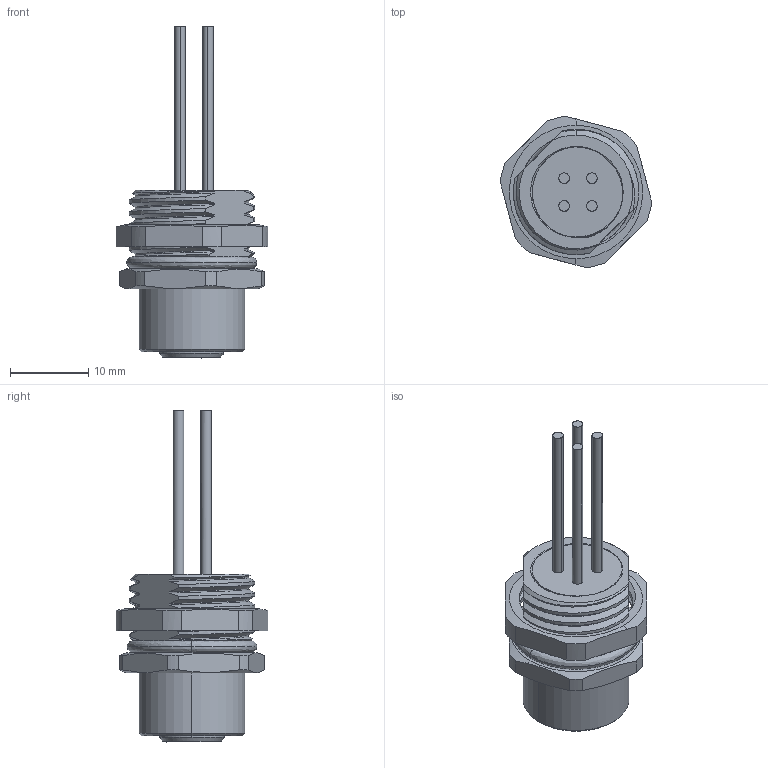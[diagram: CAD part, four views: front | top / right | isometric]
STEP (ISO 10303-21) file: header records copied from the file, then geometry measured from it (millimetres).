
FILE_DESCRIPTION (( 'STEP AP203' ), '1' );
FILE_NAME ('64SA01-XXX.STEP', '2023-10-17T09:13:15', ( 'ADMIN' ), ( '' ), 'SwSTEP 2.0', 'SolidWorks 2016', '' );
FILE_SCHEMA (( 'CONFIG_CONTROL_DESIGN' ));
Length unit declared in the file: millimetre
Products named in the file (1): 64SA01-XXX
Bounding box: 19.33 x 19.33 x 42.33 mm (x, y, z)
Volume: 3497.3 mm3; surface area: 3645.1 mm2
Topology: 1 solids, 12 shells, 505 faces, 1358 edges, 897 vertices
Faces by surface type: cylinder 169, bspline 158, plane 139, cone 39
Entity records: 52968 total; most frequent: CARTESIAN_POINT 42258, ORIENTED_EDGE 2716, EDGE_CURVE 1358, DIRECTION 1341, VERTEX_POINT 897, B_SPLINE_CURVE_WITH_KNOTS 839, EDGE_LOOP 535, FACE_OUTER_BOUND 505
